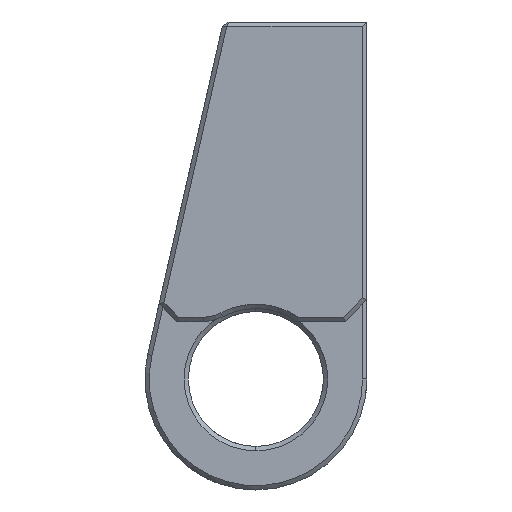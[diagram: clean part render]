
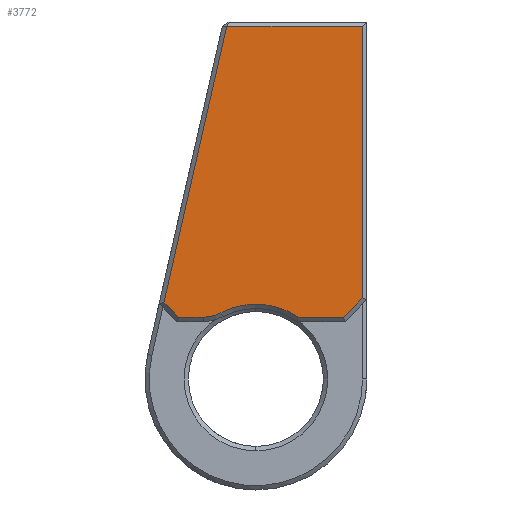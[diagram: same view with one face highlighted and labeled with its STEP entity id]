
A CAD part, front view. The second image highlights one B-rep face of the part: STEP entity #3772.
In plain terms, the highlighted planar face has unit normal (0, -1, 0).
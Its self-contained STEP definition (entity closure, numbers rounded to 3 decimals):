
#10 = CARTESIAN_POINT ( 'NONE',  ( -21.247, -64., 17.051 ) ) ;
#128 = ORIENTED_EDGE ( 'NONE', *, *, #2875, .T. ) ;
#207 = EDGE_CURVE ( 'NONE', #2435, #303, #2864, .T. ) ;
#218 = ORIENTED_EDGE ( 'NONE', *, *, #510, .T. ) ;
#232 = VECTOR ( 'NONE', #2888, 1000. ) ;
#303 = VERTEX_POINT ( 'NONE', #3803 ) ;
#308 = CARTESIAN_POINT ( 'NONE',  ( 24.5, -64., 81. ) ) ;
#326 = CARTESIAN_POINT ( 'NONE',  ( -12.018, -64., 8.482 ) ) ;
#337 = ORIENTED_EDGE ( 'NONE', *, *, #3385, .T. ) ;
#404 = VERTEX_POINT ( 'NONE', #1588 ) ;
#480 = EDGE_CURVE ( 'NONE', #4732, #2589, #3602, .T. ) ;
#510 = EDGE_CURVE ( 'NONE', #404, #556, #3842, .T. ) ;
#542 = CARTESIAN_POINT ( 'NONE',  ( -6.702, -64., 81. ) ) ;
#556 = VERTEX_POINT ( 'NONE', #1130 ) ;
#579 = CARTESIAN_POINT ( 'NONE',  ( 23.693, -64., 17.807 ) ) ;
#713 = DIRECTION ( 'NONE',  ( 1., 0., 0. ) ) ;
#714 = DIRECTION ( 'NONE',  ( 0., 0., 1. ) ) ;
#751 = ORIENTED_EDGE ( 'NONE', *, *, #1824, .T. ) ;
#770 = CARTESIAN_POINT ( 'NONE',  ( -17.735, -64., 14.2 ) ) ;
#790 = VECTOR ( 'NONE', #714, 1000. ) ;
#1068 = DIRECTION ( 'NONE',  ( 0., 1., 0. ) ) ;
#1105 = CARTESIAN_POINT ( 'NONE',  ( -8.021, -64., 15.215 ) ) ;
#1130 = CARTESIAN_POINT ( 'NONE',  ( 20.086, -64., 14.2 ) ) ;
#1208 = CARTESIAN_POINT ( 'NONE',  ( -21.125, -64., 17.59 ) ) ;
#1275 = EDGE_CURVE ( 'NONE', #2589, #2435, #1322, .T. ) ;
#1322 = LINE ( 'NONE', #326, #232 ) ;
#1349 = CARTESIAN_POINT ( 'NONE',  ( -12.125, -64., 23. ) ) ;
#1387 = AXIS2_PLACEMENT_3D ( 'NONE', #1349, #3909, #1717 ) ;
#1555 = EDGE_CURVE ( 'NONE', #2758, #4732, #4399, .T. ) ;
#1588 = CARTESIAN_POINT ( 'NONE',  ( 9.706, -64., 14.2 ) ) ;
#1601 = DIRECTION ( 'NONE',  ( 0., 0., -1. ) ) ;
#1622 = ORIENTED_EDGE ( 'NONE', *, *, #480, .T. ) ;
#1655 = DIRECTION ( 'NONE',  ( 1., 0., 0. ) ) ;
#1669 = DIRECTION ( 'NONE',  ( 0.707, 0., 0.707 ) ) ;
#1717 = DIRECTION ( 'NONE',  ( 0., 0., -1. ) ) ;
#1824 = EDGE_CURVE ( 'NONE', #2383, #404, #4294, .T. ) ;
#1843 = AXIS2_PLACEMENT_3D ( 'NONE', #3256, #1068, #3623 ) ;
#1969 = ORIENTED_EDGE ( 'NONE', *, *, #207, .T. ) ;
#2006 = VECTOR ( 'NONE', #1655, 1000. ) ;
#2013 = VECTOR ( 'NONE', #713, 1000. ) ;
#2053 = DIRECTION ( 'NONE',  ( -1., 0., 0. ) ) ;
#2107 = FACE_OUTER_BOUND ( 'NONE', #3049, .T. ) ;
#2169 = VECTOR ( 'NONE', #2053, 1000. ) ;
#2309 = PLANE ( 'NONE',  #4513 ) ;
#2383 = VERTEX_POINT ( 'NONE', #1105 ) ;
#2435 = VERTEX_POINT ( 'NONE', #770 ) ;
#2531 = CARTESIAN_POINT ( 'NONE',  ( 24.5, -64., 82. ) ) ;
#2589 = VERTEX_POINT ( 'NONE', #1208 ) ;
#2687 = CARTESIAN_POINT ( 'NONE',  ( 10.5, -64., 31. ) ) ;
#2718 = VERTEX_POINT ( 'NONE', #3955 ) ;
#2758 = VERTEX_POINT ( 'NONE', #308 ) ;
#2761 = VECTOR ( 'NONE', #3671, 1000. ) ;
#2864 = LINE ( 'NONE', #4211, #2006 ) ;
#2865 = ORIENTED_EDGE ( 'NONE', *, *, #3943, .T. ) ;
#2875 = EDGE_CURVE ( 'NONE', #2718, #2758, #3597, .T. ) ;
#2888 = DIRECTION ( 'NONE',  ( 0.707, 0., -0.707 ) ) ;
#3049 = EDGE_LOOP ( 'NONE', ( #4545, #1969, #337, #751, #218, #2865, #128, #3279, #1622 ) ) ;
#3142 = LINE ( 'NONE', #579, #4224 ) ;
#3256 = CARTESIAN_POINT ( 'NONE',  ( 0., -64., 0. ) ) ;
#3276 = CARTESIAN_POINT ( 'NONE',  ( 10.5, -64., 14.2 ) ) ;
#3279 = ORIENTED_EDGE ( 'NONE', *, *, #1555, .T. ) ;
#3385 = EDGE_CURVE ( 'NONE', #303, #2383, #4229, .T. ) ;
#3597 = LINE ( 'NONE', #2531, #790 ) ;
#3602 = LINE ( 'NONE', #10, #2761 ) ;
#3623 = DIRECTION ( 'NONE',  ( 0., 0., -1. ) ) ;
#3671 = DIRECTION ( 'NONE',  ( -0.222, 0., -0.975 ) ) ;
#3772 = ADVANCED_FACE ( 'NONE', ( #2107 ), #2309, .T. ) ;
#3786 = DIRECTION ( 'NONE',  ( 0., -1., 0. ) ) ;
#3803 = CARTESIAN_POINT ( 'NONE',  ( -12.125, -64., 14.2 ) ) ;
#3842 = LINE ( 'NONE', #3276, #2013 ) ;
#3909 = DIRECTION ( 'NONE',  ( 0., -1., 0. ) ) ;
#3943 = EDGE_CURVE ( 'NONE', #556, #2718, #3142, .T. ) ;
#3955 = CARTESIAN_POINT ( 'NONE',  ( 24.5, -64., 18.614 ) ) ;
#4211 = CARTESIAN_POINT ( 'NONE',  ( -12.125, -64., 14.2 ) ) ;
#4224 = VECTOR ( 'NONE', #1669, 1000. ) ;
#4229 = CIRCLE ( 'NONE', #1387, 8.8 ) ;
#4294 = CIRCLE ( 'NONE', #1843, 17.2 ) ;
#4399 = LINE ( 'NONE', #4625, #2169 ) ;
#4513 = AXIS2_PLACEMENT_3D ( 'NONE', #2687, #3786, #1601 ) ;
#4545 = ORIENTED_EDGE ( 'NONE', *, *, #1275, .T. ) ;
#4625 = CARTESIAN_POINT ( 'NONE',  ( -7.5, -64., 81. ) ) ;
#4732 = VERTEX_POINT ( 'NONE', #542 ) ;
